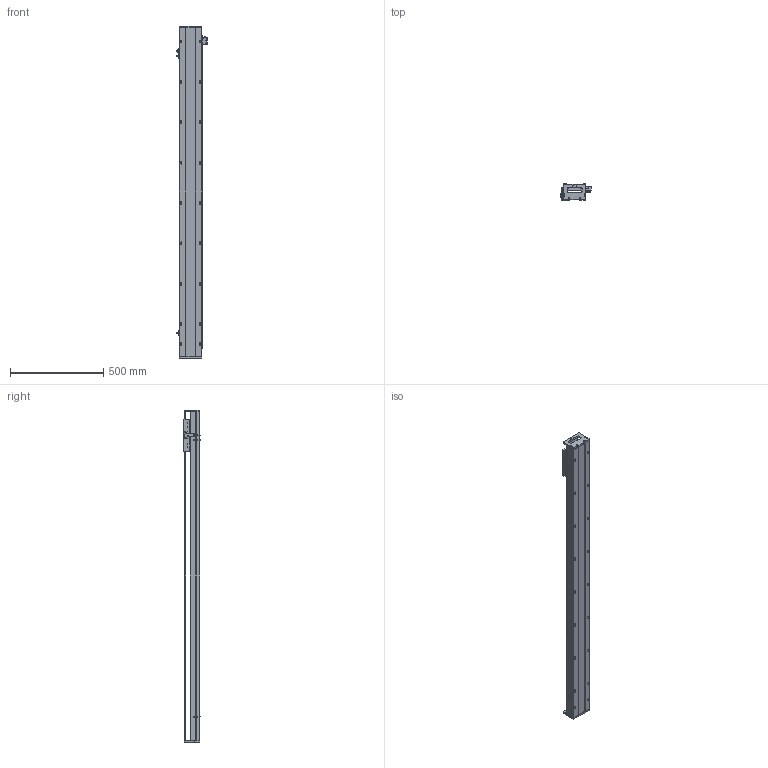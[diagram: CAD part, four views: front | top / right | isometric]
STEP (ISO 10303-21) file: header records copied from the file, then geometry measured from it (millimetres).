
FILE_DESCRIPTION (( 'STEP AP203' ), '1' );
FILE_NAME ('SKR12S-C1-S1506（简）.STEP', '2022-09-26T02:51:01', ( '' ), ( '' ), 'SwSTEP 2.0', 'SolidWorks 2018', '' );
FILE_SCHEMA (( 'CONFIG_CONTROL_DESIGN' ));
Length unit declared in the file: millimetre
Products named in the file (8): EE-SX672; SKR12耜啣; SIKO棠掑; SKR12菁釱-C1-S1506(潠); SKR12S-C1-S1506（简）; 棠掑假蚾輸; SKR12滑台-170L（简）; 覜茼え
Assembly tree (10 placements, depth 2):
  SKR12S-C1-S1506（简）
    SKR12菁釱-C1-S1506(潠)
    SKR12滑台-170L（简）
    SKR12耜啣  x2
    棠掑假蚾輸
    SIKO棠掑
    覜茼え
    EE-SX672  x3
Bounding box: 162.7 x 87.3 x 1776 mm (x, y, z)
Volume: 7720024 mm3; surface area: 1226385.7 mm2
Topology: 11 solids, 11 shells, 1064 faces, 2843 edges, 1795 vertices
Faces by surface type: cylinder 505, plane 413, cone 146
Entity records: 29627 total; most frequent: CARTESIAN_POINT 6235, DIRECTION 4829, ORIENTED_EDGE 4626, EDGE_CURVE 2313, AXIS2_PLACEMENT_3D 1797, VERTEX_POINT 1499, VECTOR 1235, LINE 1235
